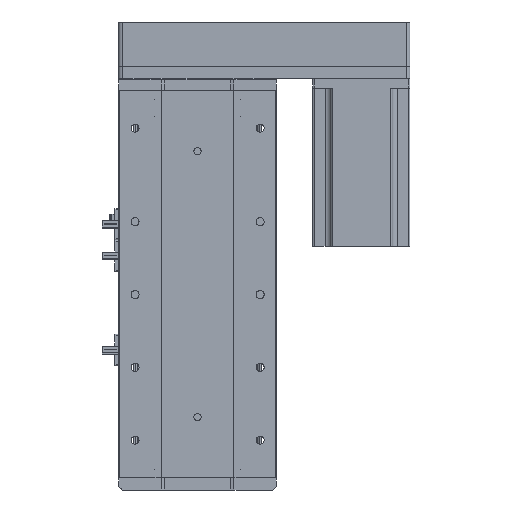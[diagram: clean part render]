
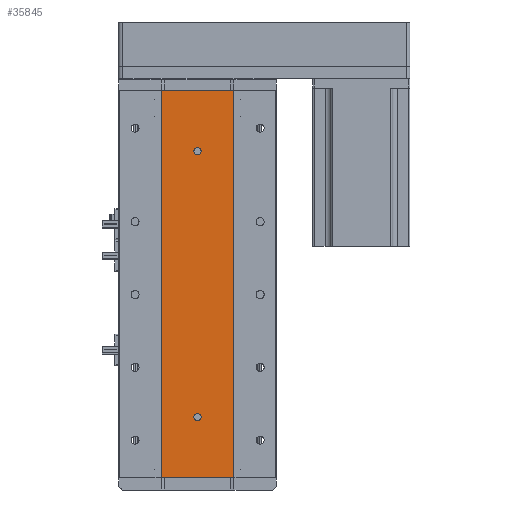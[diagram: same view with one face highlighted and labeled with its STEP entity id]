
A CAD part, left-side view. The second image highlights one B-rep face of the part: STEP entity #35845.
In plain terms, the highlighted planar face has unit normal (-1, 0, 0).
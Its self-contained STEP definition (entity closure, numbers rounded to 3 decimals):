
#19 = CARTESIAN_POINT ( 'NONE',  ( -24.994, -29.785, 0. ) ) ;
#387 = EDGE_CURVE ( 'NONE', #11018, #6575, #18997, .T. ) ;
#1204 = AXIS2_PLACEMENT_3D ( 'NONE', #32286, #13801, #35366 ) ;
#1962 = DIRECTION ( 'NONE',  ( -1., 0., 0. ) ) ;
#2612 = VECTOR ( 'NONE', #25764, 1000. ) ;
#3028 = EDGE_CURVE ( 'NONE', #26828, #6408, #4402, .T. ) ;
#3228 = EDGE_CURVE ( 'NONE', #37185, #6575, #4864, .T. ) ;
#3479 = EDGE_LOOP ( 'NONE', ( #37051, #25295, #35729, #36614 ) ) ;
#3772 = AXIS2_PLACEMENT_3D ( 'NONE', #20384, #1962, #23511 ) ;
#3787 = CIRCLE ( 'NONE', #3772, 3. ) ;
#3895 = VECTOR ( 'NONE', #33643, 1000. ) ;
#4402 = CIRCLE ( 'NONE', #9951, 3. ) ;
#4864 = LINE ( 'NONE', #30532, #3895 ) ;
#5882 = AXIS2_PLACEMENT_3D ( 'NONE', #13186, #34772, #16311 ) ;
#6408 = VERTEX_POINT ( 'NONE', #26675 ) ;
#6575 = VERTEX_POINT ( 'NONE', #19 ) ;
#6697 = FACE_OUTER_BOUND ( 'NONE', #3479, .T. ) ;
#8398 = DIRECTION ( 'NONE',  ( 1., 0., 0. ) ) ;
#9137 = VERTEX_POINT ( 'NONE', #37619 ) ;
#9951 = AXIS2_PLACEMENT_3D ( 'NONE', #17673, #39220, #20777 ) ;
#10141 = CARTESIAN_POINT ( 'NONE',  ( -24.994, 29.785, 0. ) ) ;
#11018 = VERTEX_POINT ( 'NONE', #19332 ) ;
#12026 = CARTESIAN_POINT ( 'NONE',  ( -24.994, 0., 272. ) ) ;
#13127 = CIRCLE ( 'NONE', #5882, 3. ) ;
#13186 = CARTESIAN_POINT ( 'NONE',  ( -24.994, 0., 50. ) ) ;
#13801 = DIRECTION ( 'NONE',  ( -1., 0., 0. ) ) ;
#14416 = ORIENTED_EDGE ( 'NONE', *, *, #37628, .F. ) ;
#15563 = VERTEX_POINT ( 'NONE', #24601 ) ;
#16079 = LINE ( 'NONE', #23776, #39707 ) ;
#16311 = DIRECTION ( 'NONE',  ( 0., 0., 1. ) ) ;
#17673 = CARTESIAN_POINT ( 'NONE',  ( -24.994, 0., 269. ) ) ;
#18381 = CARTESIAN_POINT ( 'NONE',  ( -24.994, 29.785, 319. ) ) ;
#18522 = DIRECTION ( 'NONE',  ( 0., 0., -1. ) ) ;
#18770 = EDGE_CURVE ( 'NONE', #22608, #37185, #16079, .T. ) ;
#18929 = EDGE_CURVE ( 'NONE', #22608, #11018, #22792, .T. ) ;
#18997 = LINE ( 'NONE', #10141, #2612 ) ;
#19332 = CARTESIAN_POINT ( 'NONE',  ( -24.994, 29.785, 0. ) ) ;
#20384 = CARTESIAN_POINT ( 'NONE',  ( -24.994, 0., 269. ) ) ;
#20624 = ORIENTED_EDGE ( 'NONE', *, *, #32492, .F. ) ;
#20687 = DIRECTION ( 'NONE',  ( 0., -1., 0. ) ) ;
#20777 = DIRECTION ( 'NONE',  ( 0., 0., 1. ) ) ;
#22434 = EDGE_CURVE ( 'NONE', #15563, #9137, #26883, .T. ) ;
#22608 = VERTEX_POINT ( 'NONE', #33079 ) ;
#22792 = LINE ( 'NONE', #18381, #30042 ) ;
#23079 = FACE_BOUND ( 'NONE', #35818, .T. ) ;
#23511 = DIRECTION ( 'NONE',  ( 0., 0., 1. ) ) ;
#23635 = PLANE ( 'NONE',  #39590 ) ;
#23776 = CARTESIAN_POINT ( 'NONE',  ( -24.994, 29.785, 319. ) ) ;
#24601 = CARTESIAN_POINT ( 'NONE',  ( -24.994, 0., 53. ) ) ;
#25295 = ORIENTED_EDGE ( 'NONE', *, *, #3228, .F. ) ;
#25764 = DIRECTION ( 'NONE',  ( 0., -1., 0. ) ) ;
#26675 = CARTESIAN_POINT ( 'NONE',  ( -24.994, 0., 266. ) ) ;
#26828 = VERTEX_POINT ( 'NONE', #12026 ) ;
#26878 = CARTESIAN_POINT ( 'NONE',  ( -24.994, 29.785, 319. ) ) ;
#26883 = CIRCLE ( 'NONE', #1204, 3. ) ;
#29967 = DIRECTION ( 'NONE',  ( 0., 0., -1. ) ) ;
#30042 = VECTOR ( 'NONE', #18522, 1000. ) ;
#30532 = CARTESIAN_POINT ( 'NONE',  ( -24.994, -29.785, 319. ) ) ;
#31286 = FACE_BOUND ( 'NONE', #34424, .T. ) ;
#31617 = ORIENTED_EDGE ( 'NONE', *, *, #3028, .F. ) ;
#32286 = CARTESIAN_POINT ( 'NONE',  ( -24.994, 0., 50. ) ) ;
#32492 = EDGE_CURVE ( 'NONE', #9137, #15563, #13127, .T. ) ;
#33079 = CARTESIAN_POINT ( 'NONE',  ( -24.994, 29.785, 319. ) ) ;
#33643 = DIRECTION ( 'NONE',  ( 0., 0., -1. ) ) ;
#34424 = EDGE_LOOP ( 'NONE', ( #36174, #20624 ) ) ;
#34772 = DIRECTION ( 'NONE',  ( -1., 0., 0. ) ) ;
#35366 = DIRECTION ( 'NONE',  ( 0., 0., 1. ) ) ;
#35729 = ORIENTED_EDGE ( 'NONE', *, *, #18770, .F. ) ;
#35818 = EDGE_LOOP ( 'NONE', ( #31617, #14416 ) ) ;
#35845 = ADVANCED_FACE ( 'NONE', ( #23079, #31286, #6697 ), #23635, .F. ) ;
#36174 = ORIENTED_EDGE ( 'NONE', *, *, #22434, .F. ) ;
#36614 = ORIENTED_EDGE ( 'NONE', *, *, #18929, .T. ) ;
#37051 = ORIENTED_EDGE ( 'NONE', *, *, #387, .T. ) ;
#37185 = VERTEX_POINT ( 'NONE', #39716 ) ;
#37619 = CARTESIAN_POINT ( 'NONE',  ( -24.994, 0., 47. ) ) ;
#37628 = EDGE_CURVE ( 'NONE', #6408, #26828, #3787, .T. ) ;
#39220 = DIRECTION ( 'NONE',  ( -1., 0., 0. ) ) ;
#39590 = AXIS2_PLACEMENT_3D ( 'NONE', #26878, #8398, #29967 ) ;
#39707 = VECTOR ( 'NONE', #20687, 1000. ) ;
#39716 = CARTESIAN_POINT ( 'NONE',  ( -24.994, -29.785, 319. ) ) ;
